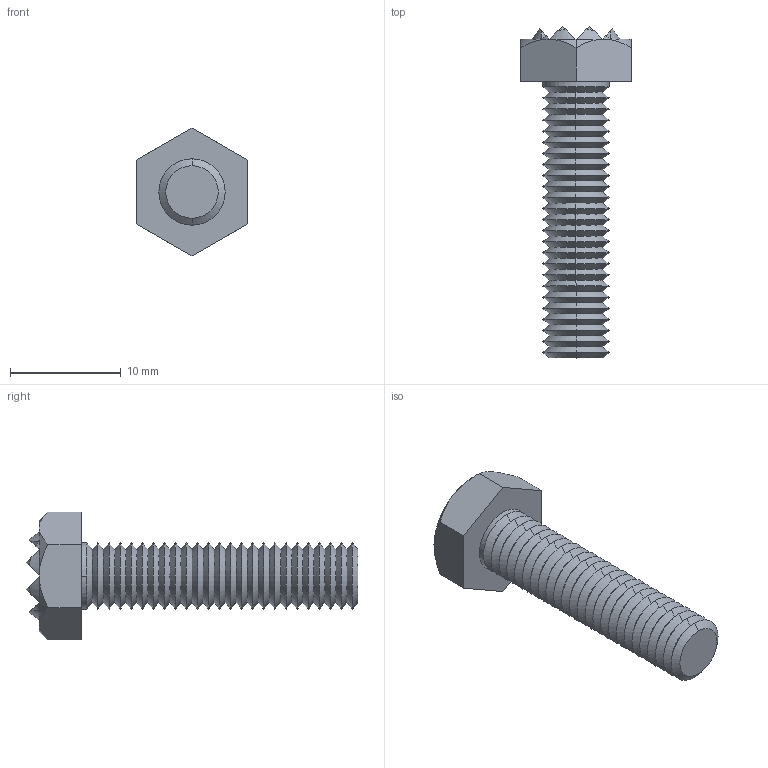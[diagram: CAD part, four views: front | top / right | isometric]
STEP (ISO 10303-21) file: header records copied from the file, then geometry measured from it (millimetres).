
FILE_DESCRIPTION (( 'STEP AP203' ), '1' );
FILE_NAME ('35400.W0002.step', '2017-07-03T07:20:07', ( 'User' ), ( '' ), 'SwSTEP 2.0', 'SolidWorks 2009', '' );
FILE_SCHEMA (( 'CONFIG_CONTROL_DESIGN' ));
Length unit declared in the file: millimetre
Products named in the file (1): 35400.W0002
Bounding box: 10 x 30 x 11.55 mm (x, y, z)
Volume: 918 mm3; surface area: 984.6 mm2
Topology: 1 solids, 1 shells, 176 faces, 340 edges, 168 vertices
Faces by surface type: cone 117, plane 57, cylinder 2
Entity records: 4388 total; most frequent: CARTESIAN_POINT 857, DIRECTION 773, ORIENTED_EDGE 680, EDGE_CURVE 340, AXIS2_PLACEMENT_3D 300, EDGE_LOOP 178, ADVANCED_FACE 176, FACE_OUTER_BOUND 176
